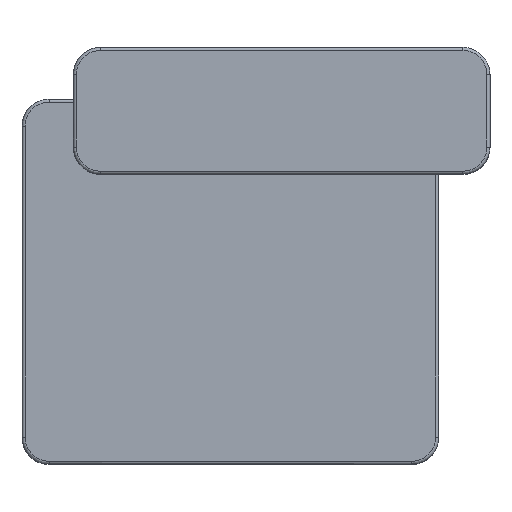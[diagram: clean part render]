
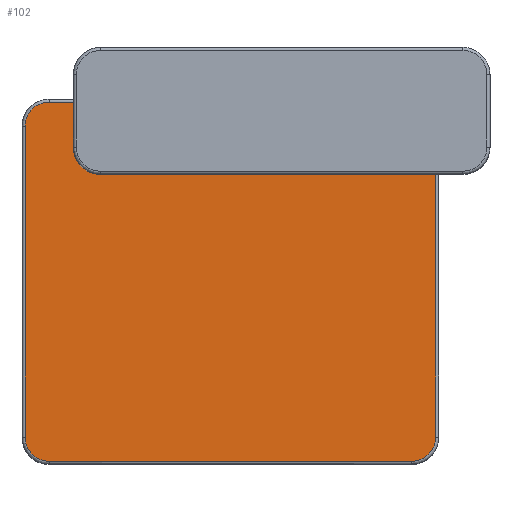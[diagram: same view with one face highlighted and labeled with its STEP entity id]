
A CAD part, top view. The second image highlights one B-rep face of the part: STEP entity #102.
In plain terms, the highlighted planar face has unit normal (0, 0, 1).
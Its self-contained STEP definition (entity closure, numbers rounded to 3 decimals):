
#102=ADVANCED_FACE('',(#194),#1322,.T.);
#194=FACE_OUTER_BOUND('',#286,.T.);
#286=EDGE_LOOP('',(#525,#526,#527,#528,#529,#530,#531,#532));
#525=ORIENTED_EDGE('',*,*,#867,.T.);
#526=ORIENTED_EDGE('',*,*,#835,.T.);
#527=ORIENTED_EDGE('',*,*,#852,.F.);
#528=ORIENTED_EDGE('',*,*,#836,.T.);
#529=ORIENTED_EDGE('',*,*,#849,.T.);
#530=ORIENTED_EDGE('',*,*,#834,.T.);
#531=ORIENTED_EDGE('',*,*,#860,.T.);
#532=ORIENTED_EDGE('',*,*,#833,.T.);
#833=EDGE_CURVE('',#1199,#1197,#1101,.T.);
#834=EDGE_CURVE('',#1202,#1200,#1102,.T.);
#835=EDGE_CURVE('',#1198,#1204,#1103,.T.);
#836=EDGE_CURVE('',#1203,#1201,#1104,.T.);
#849=EDGE_CURVE('',#1201,#1202,#981,.T.);
#852=EDGE_CURVE('',#1203,#1204,#984,.T.);
#860=EDGE_CURVE('',#1200,#1199,#992,.T.);
#867=EDGE_CURVE('',#1197,#1198,#999,.T.);
#981=(
BOUNDED_CURVE()
B_SPLINE_CURVE(3,(#2661,#2662,#2663,#2664,#2665,#2666,#2667,#2668,#2669,
#2670,#2671),.UNSPECIFIED.,.F.,.F.)
B_SPLINE_CURVE_WITH_KNOTS((4,1,1,1,1,1,1,1,4),(0.,7.539,15.078,
23.247,31.416,39.584,47.753,55.292,
62.831),.UNSPECIFIED.)
CURVE()
GEOMETRIC_REPRESENTATION_ITEM()
RATIONAL_B_SPLINE_CURVE((1.,1.,1.,1.,1.,1.,1.,1.,1.,
1.,1.))
REPRESENTATION_ITEM('')
);
#984=(
BOUNDED_CURVE()
B_SPLINE_CURVE(3,(#2686,#2687,#2688,#2689,#2690,#2691,#2692,#2693,#2694,
#2695,#2696),.UNSPECIFIED.,.F.,.F.)
B_SPLINE_CURVE_WITH_KNOTS((4,1,1,1,1,1,1,1,4),(0.,7.539,15.078,
23.247,31.416,39.584,47.753,55.292,
62.831),.UNSPECIFIED.)
CURVE()
GEOMETRIC_REPRESENTATION_ITEM()
RATIONAL_B_SPLINE_CURVE((1.,1.,1.,1.,1.,1.,
1.,1.,1.,1.,1.))
REPRESENTATION_ITEM('')
);
#992=(
BOUNDED_CURVE()
B_SPLINE_CURVE(3,(#2742,#2743,#2744,#2745,#2746,#2747,#2748,#2749,#2750,
#2751,#2752),.UNSPECIFIED.,.F.,.F.)
B_SPLINE_CURVE_WITH_KNOTS((4,1,1,1,1,1,1,1,4),(0.,7.539,15.078,
23.247,31.416,39.584,47.753,55.292,
62.831),.UNSPECIFIED.)
CURVE()
GEOMETRIC_REPRESENTATION_ITEM()
RATIONAL_B_SPLINE_CURVE((1.,1.,1.,1.,1.,1.,
1.,1.,1.,1.,1.))
REPRESENTATION_ITEM('')
);
#999=(
BOUNDED_CURVE()
B_SPLINE_CURVE(3,(#2795,#2796,#2797,#2798,#2799,#2800,#2801,#2802,#2803,
#2804,#2805),.UNSPECIFIED.,.F.,.F.)
B_SPLINE_CURVE_WITH_KNOTS((4,1,1,1,1,1,1,1,4),(0.,7.539,15.078,
23.247,31.416,39.584,47.753,55.292,
62.831),.UNSPECIFIED.)
CURVE()
GEOMETRIC_REPRESENTATION_ITEM()
RATIONAL_B_SPLINE_CURVE((1.,1.,1.,1.,1.,1.,1.,1.,
1.,1.,1.))
REPRESENTATION_ITEM('')
);
#1101=B_SPLINE_CURVE_WITH_KNOTS('',1,(#2577,#2578),.UNSPECIFIED.,.F.,.F.,
(2,2),(45.,645.),.UNSPECIFIED.);
#1102=B_SPLINE_CURVE_WITH_KNOTS('',1,(#2579,#2580),.UNSPECIFIED.,.F.,.F.,
(2,2),(45.,560.),.UNSPECIFIED.);
#1103=B_SPLINE_CURVE_WITH_KNOTS('',1,(#2581,#2582),.UNSPECIFIED.,.F.,.F.,
(2,2),(45.,560.),.UNSPECIFIED.);
#1104=B_SPLINE_CURVE_WITH_KNOTS('',1,(#2583,#2584),.UNSPECIFIED.,.F.,.F.,
(2,2),(45.,645.),.UNSPECIFIED.);
#1197=VERTEX_POINT('',#2529);
#1198=VERTEX_POINT('',#2530);
#1199=VERTEX_POINT('',#2531);
#1200=VERTEX_POINT('',#2532);
#1201=VERTEX_POINT('',#2533);
#1202=VERTEX_POINT('',#2534);
#1203=VERTEX_POINT('',#2535);
#1204=VERTEX_POINT('',#2536);
#1322=PLANE('',#1370);
#1370=AXIS2_PLACEMENT_3D('',#2168,#1401,$);
#1401=DIRECTION('',(0.,0.,1.));
#2168=CARTESIAN_POINT('',(-345.,-302.5,400.));
#2529=CARTESIAN_POINT('',(-300.,297.5,400.));
#2530=CARTESIAN_POINT('',(-340.,257.5,400.));
#2531=CARTESIAN_POINT('',(300.,297.5,400.));
#2532=CARTESIAN_POINT('',(340.,257.5,400.));
#2533=CARTESIAN_POINT('',(300.,-297.5,400.));
#2534=CARTESIAN_POINT('',(340.,-257.5,400.));
#2535=CARTESIAN_POINT('',(-300.,-297.5,400.));
#2536=CARTESIAN_POINT('',(-340.,-257.5,400.));
#2577=CARTESIAN_POINT('',(300.,297.5,400.));
#2578=CARTESIAN_POINT('',(-300.,297.5,400.));
#2579=CARTESIAN_POINT('',(340.,-257.5,400.));
#2580=CARTESIAN_POINT('',(340.,257.5,400.));
#2581=CARTESIAN_POINT('',(-340.,257.5,400.));
#2582=CARTESIAN_POINT('',(-340.,-257.5,400.));
#2583=CARTESIAN_POINT('',(-300.,-297.5,400.));
#2584=CARTESIAN_POINT('',(300.,-297.5,400.));
#2661=CARTESIAN_POINT('',(300.,-297.5,400.));
#2662=CARTESIAN_POINT('',(302.513,-297.5,400.));
#2663=CARTESIAN_POINT('',(307.539,-297.025,400.));
#2664=CARTESIAN_POINT('',(315.014,-294.854,400.));
#2665=CARTESIAN_POINT('',(322.114,-291.166,400.));
#2666=CARTESIAN_POINT('',(328.482,-285.982,400.));
#2667=CARTESIAN_POINT('',(333.666,-279.614,400.));
#2668=CARTESIAN_POINT('',(337.354,-272.514,400.));
#2669=CARTESIAN_POINT('',(339.525,-265.039,400.));
#2670=CARTESIAN_POINT('',(340.,-260.013,400.));
#2671=CARTESIAN_POINT('',(340.,-257.5,400.));
#2686=CARTESIAN_POINT('',(-300.,-297.5,400.));
#2687=CARTESIAN_POINT('',(-302.513,-297.5,400.));
#2688=CARTESIAN_POINT('',(-307.539,-297.025,400.));
#2689=CARTESIAN_POINT('',(-315.014,-294.854,400.));
#2690=CARTESIAN_POINT('',(-322.114,-291.166,400.));
#2691=CARTESIAN_POINT('',(-328.482,-285.982,400.));
#2692=CARTESIAN_POINT('',(-333.666,-279.614,400.));
#2693=CARTESIAN_POINT('',(-337.354,-272.514,400.));
#2694=CARTESIAN_POINT('',(-339.525,-265.039,400.));
#2695=CARTESIAN_POINT('',(-340.,-260.013,400.));
#2696=CARTESIAN_POINT('',(-340.,-257.5,400.));
#2742=CARTESIAN_POINT('',(340.,257.5,400.));
#2743=CARTESIAN_POINT('',(340.,260.013,400.));
#2744=CARTESIAN_POINT('',(339.525,265.039,400.));
#2745=CARTESIAN_POINT('',(337.354,272.514,400.));
#2746=CARTESIAN_POINT('',(333.666,279.614,400.));
#2747=CARTESIAN_POINT('',(328.482,285.982,400.));
#2748=CARTESIAN_POINT('',(322.114,291.166,400.));
#2749=CARTESIAN_POINT('',(315.014,294.854,400.));
#2750=CARTESIAN_POINT('',(307.539,297.025,400.));
#2751=CARTESIAN_POINT('',(302.513,297.5,400.));
#2752=CARTESIAN_POINT('',(300.,297.5,400.));
#2795=CARTESIAN_POINT('',(-300.,297.5,400.));
#2796=CARTESIAN_POINT('',(-302.513,297.5,400.));
#2797=CARTESIAN_POINT('',(-307.539,297.025,400.));
#2798=CARTESIAN_POINT('',(-315.014,294.854,400.));
#2799=CARTESIAN_POINT('',(-322.114,291.166,400.));
#2800=CARTESIAN_POINT('',(-328.482,285.982,400.));
#2801=CARTESIAN_POINT('',(-333.666,279.614,400.));
#2802=CARTESIAN_POINT('',(-337.354,272.514,400.));
#2803=CARTESIAN_POINT('',(-339.525,265.039,400.));
#2804=CARTESIAN_POINT('',(-340.,260.013,400.));
#2805=CARTESIAN_POINT('',(-340.,257.5,400.));
